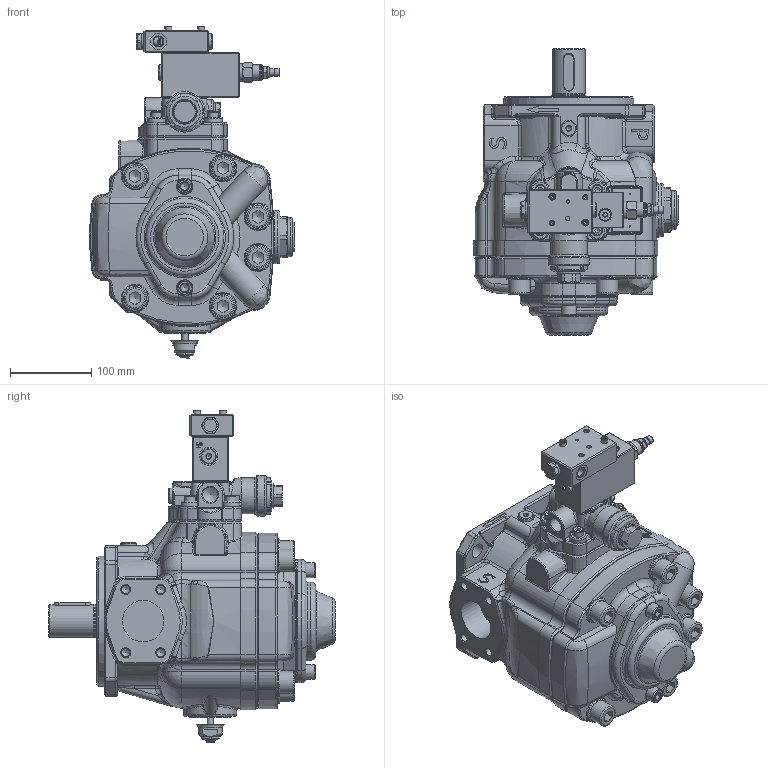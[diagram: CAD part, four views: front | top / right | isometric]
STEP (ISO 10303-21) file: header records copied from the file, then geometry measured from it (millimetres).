
FILE_DESCRIPTION(/* description */ (''),/* implementation_level */ '2;1');
FILE_NAME(/* name */ 'W:\Tecnico\Archivio\Berarma\Dimensioni Pompe\3D Export\Montaggio 3D semplificato\PLP-PHP 3\PHP 3 -A PCLS003.stp',/* time_stamp */ '2018-10-10T08:44:58+02:00',/* author */ ('marcop'),/* organization */ (''),/* preprocessor_version */ 'ST-DEVELOPER v17',/* originating_system */ 'Autodesk Inventor 2018',/* authorisation */ '');
FILE_SCHEMA (('AUTOMOTIVE_DESIGN { 1 0 10303 214 3 1 1 }'));
Products named in the file (1): PLP-PHP 3_Shrinkwrap_1
Bounding box: 251.18 x 352 x 408.1 mm (x, y, z)
Volume: 7170738.8 mm3; surface area: 611157.4 mm2
Topology: 2 solids, 2 shells, 2467 faces, 6345 edges, 3930 vertices
Faces by surface type: plane 897, cylinder 563, bspline 460, cone 255, torus 248, sphere 44
Full cylindrical faces by diameter (mm): 0.9 x3, 1.7 x4, 3 x3, 3.15 x1, 4 x4, 4.134 x2, 5 x7, 5.5 x5, 6 x3, 6.5 x3, 7.2 x13, 7.671 x2, 8 x2, 8.376 x4, 8.5 x2, 8.566 x2, 9.347 x2, 9.5 x1, 10.106 x4, 11.445 x4, 12 x6, 13 x4, 13.487 x1, 13.5 x1, 13.767 x2, 14 x3, 14.224 x1, 14.63 x1, 15.5 x2, 16 x2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
Entity records: 93794 total; most frequent: CARTESIAN_POINT 33918, ORIENTED_EDGE 12516, DIRECTION 11414, EDGE_CURVE 6258, AXIS2_PLACEMENT_3D 4478, VERTEX_POINT 3930, EDGE_LOOP 2685, STYLED_ITEM 2469
